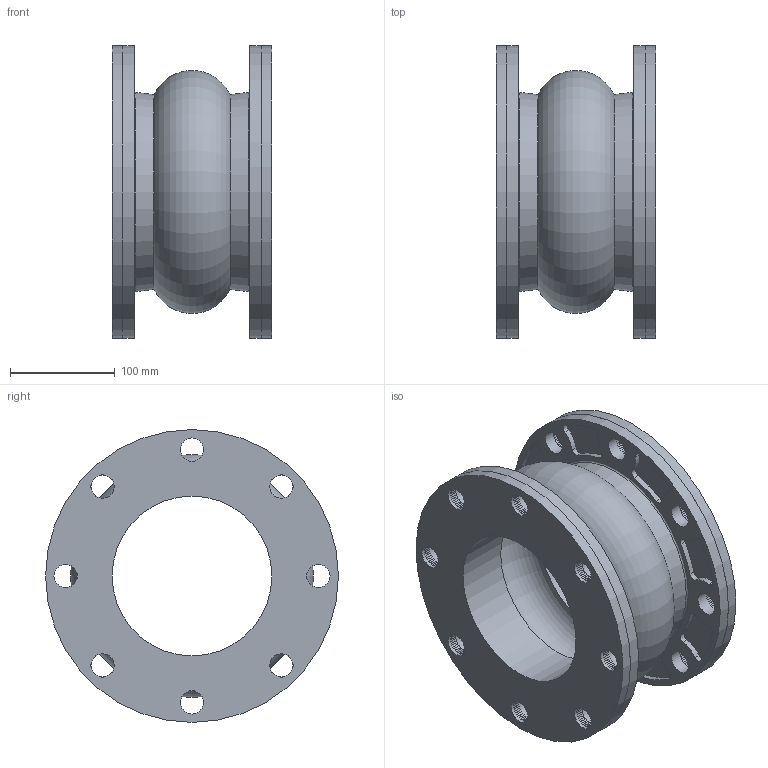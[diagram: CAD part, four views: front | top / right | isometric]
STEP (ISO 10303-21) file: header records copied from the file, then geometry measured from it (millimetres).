
FILE_DESCRIPTION((''),'2;1');
FILE_NAME('N:\StockJoints-ADSK, IGES, STEP, PNG\STEP\451 6x6.stp','2013-05-23T10:23:56',('mquog'),(''),'Autodesk Inventor 2011','Autodesk Inventor 2011','');
FILE_SCHEMA(('AUTOMOTIVE_DESIGN { 1 0 10303 214 1 1 1 1 }'));
Length unit declared in the file: inch
Products named in the file (3): 451 6x6; Style451 6x6; 6DI450BUR150
Assembly tree (3 placements, depth 2):
  451 6x6
    Style451 6x6
    6DI450BUR150  x2
Bounding box: 152.4 x 279.4 x 279.4 mm (x, y, z)
Volume: 2797719.7 mm3; surface area: 2715479.6 mm2
Topology: 14 solids, 14 shells, 414 faces, 1014 edges, 654 vertices
Faces by surface type: cylinder 310, plane 54, torus 48, cone 2
Full cylindrical faces by diameter (mm): 22.225 x128, 152.4 x2, 158.75 x4, 165.1 x8, 167.132 x4, 169.164 x4, 171.196 x4, 173.228 x4, 176.403 x2, 176.468 x2, 184.15 x2, 276.225 x14, 279.33 x2, 279.4 x2
Entity records: 9305 total; most frequent: DIRECTION 1732, CARTESIAN_POINT 1400, ORIENTED_EDGE 1132, AXIS2_PLACEMENT_3D 834, EDGE_LOOP 828, EDGE_CURVE 566, VERTEX_POINT 502, CIRCLE 502
